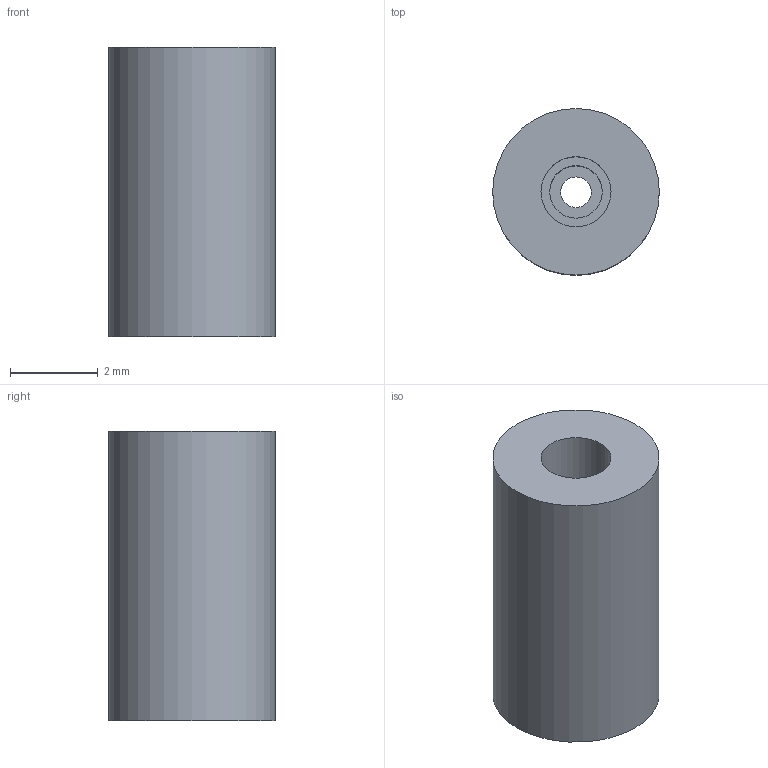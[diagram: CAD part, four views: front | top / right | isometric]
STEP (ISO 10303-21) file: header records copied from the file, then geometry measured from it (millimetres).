
FILE_DESCRIPTION(('FreeCAD Model'),'2;1');
FILE_NAME('Open CASCADE Shape Model','2026-11-13T18:42:42',('FreeCAD'),( 'FreeCAD'),'Open CASCADE STEP processor 7.8','FreeCAD','Unknown');
FILE_SCHEMA(('AUTOMOTIVE_DESIGN { 1 0 10303 214 1 1 1 1 }'));
Length unit declared in the file: millimetre
Products named in the file (1): Open CASCADE STEP translator 7.8 21
Bounding box: 3.8 x 3.8 x 6.6 mm (x, y, z)
Volume: 65.8 mm3; surface area: 127.7 mm2
Topology: 1 solids, 1 shells, 8 faces, 12 edges, 8 vertices
Faces by surface type: cylinder 4, plane 4
Full cylindrical faces by diameter (mm): 0.7 x1, 1.2 x1, 1.6 x1, 3.8 x1
Entity records: 198 total; most frequent: DIRECTION 38, CARTESIAN_POINT 29, ORIENTED_EDGE 24, AXIS2_PLACEMENT_3D 17, FACE_BOUND 12, EDGE_LOOP 12, EDGE_CURVE 12, ADVANCED_FACE 8
